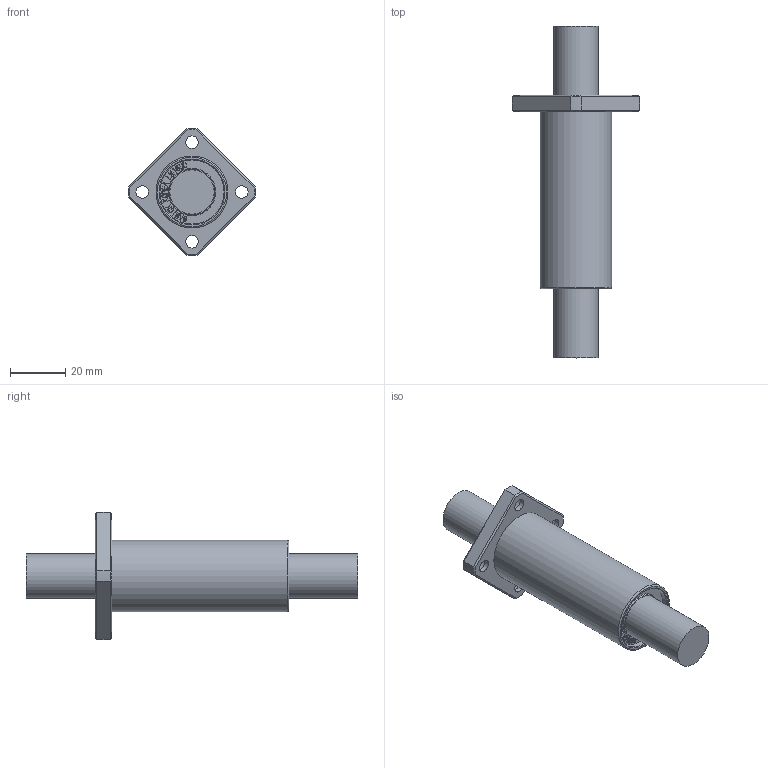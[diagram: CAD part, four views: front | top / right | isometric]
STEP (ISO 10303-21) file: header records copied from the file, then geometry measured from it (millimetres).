
FILE_DESCRIPTION(/* description */ (''),/* implementation_level */ '2;1');
FILE_NAME(/* name */ 'W:\(01) 2024년 홈페이지 CAD파일 최신화\LMEK_L\IPT\LMEK16LUU.stp',/* time_stamp */ '2025-01-25T11:02:45+09:00',/* author */ ('서우현'),/* organization */ (''),/* preprocessor_version */ 'ST-DEVELOPER v17.2',/* originating_system */ 'Autodesk Inventor 2019',/* authorisation */ '');
FILE_SCHEMA (('AUTOMOTIVE_DESIGN { 1 0 10303 214 3 1 1 }'));
Length unit declared in the file: millimetre
Products named in the file (1): LM5
Bounding box: 45.98 x 120 x 45.98 mm (x, y, z)
Volume: 49305.9 mm3; surface area: 11890.9 mm2
Topology: 1 solids, 1 shells, 858 faces, 2408 edges, 1608 vertices
Faces by surface type: bspline 588, plane 238, cylinder 18, cone 12, torus 2
Full cylindrical faces by diameter (mm): 4.5 x4, 8 x4, 16 x2, 23.2 x2, 26 x2
Entity records: 29603 total; most frequent: CARTESIAN_POINT 11043, ORIENTED_EDGE 4816, EDGE_CURVE 2408, DIRECTION 1840, VERTEX_POINT 1608, B_SPLINE_CURVE_WITH_KNOTS 1176, LINE 1134, VECTOR 1134
